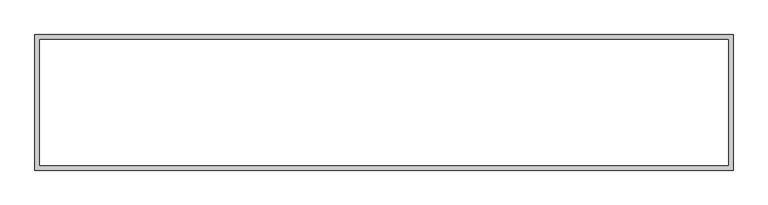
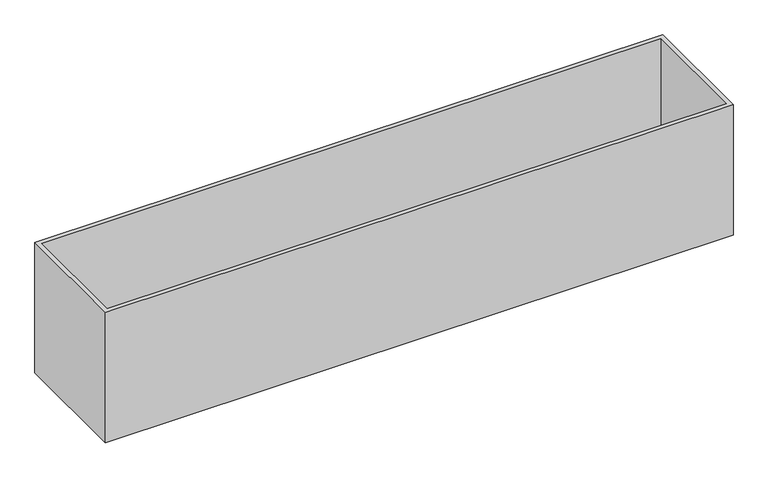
"""IFC4 building model written with IfcOpenShell, lengths in millimetres: beam geometry, Insulation_config6 : Insulation_config6."""

import ifcopenshell
import ifcopenshell.guid

model = None  # the IFC model being written
_history = None  # IfcOwnerHistory: only IFC2X3 demands one
_inside = {}  # id of a spatial element -> (the spatial element, [elements in it])
_under = {}  # id of a project, library or spatial element -> (it, [spatial elements below it])
_declared = {}  # id of a project -> (the project, [libraries it declares])
_typed = {}  # id of a type object -> (the type object, [elements of that type])
_made_of = {}  # id of a material, layer set ... -> (it, [elements and type objects made of it])


def new_model(schema):
    """Start an empty IFC model of exactly this schema.

    Asked for "IFC4X3", IfcOpenShell would pick the latest addendum, in which some entities
    have other attributes; the version numbers below select the first issue.
    IFC2X3 requires an IfcOwnerHistory on every rooted entity: one is made here for all.
    """
    global model, _history
    if schema == "IFC4X3":
        model = ifcopenshell.file(schema_version=(4, 3, 0, 0))
    else:
        model = ifcopenshell.file(schema=schema)
    _inside.clear()
    _under.clear()
    _declared.clear()
    _typed.clear()
    _made_of.clear()
    _history = None
    if model.schema == "IFC2X3":
        org = make("IfcOrganization", Name="unknown")
        user = make(
            "IfcPersonAndOrganization",
            ThePerson=make("IfcPerson", FamilyName="unknown"),
            TheOrganization=org,
        )
        app = make(
            "IfcApplication",
            ApplicationDeveloper=org,
            Version="unknown",
            ApplicationFullName="unknown",
            ApplicationIdentifier="unknown",
        )
        _history = make(
            "IfcOwnerHistory",
            OwningUser=user,
            OwningApplication=app,
            ChangeAction="ADDED",
            CreationDate=0,
        )
    return model


def make(cls, **values):
    """One entity of the class cls with the attributes given. An attribute that is None is left unset."""
    return model.create_entity(
        cls, **{name: value for name, value in values.items() if value is not None}
    )


def rooted(cls, **values):
    """An entity with a GlobalId (a new one), such as an element, a storey or a relation."""
    return make(cls, GlobalId=ifcopenshell.guid.new(), OwnerHistory=_history, **values)


def si_unit(unit_type, name, prefix=None):
    """IfcSIUnit, for example si_unit("LENGTHUNIT", "METRE", prefix="MILLI")."""
    return make("IfcSIUnit", UnitType=unit_type, Prefix=prefix, Name=name)


def assignment(units):
    """IfcUnitAssignment: the units of a project."""
    return None if units is None else make("IfcUnitAssignment", Units=units)


def point(xyz):
    """IfcCartesianPoint."""
    return None if xyz is None else make("IfcCartesianPoint", Coordinates=xyz)


def direction(xyz):
    """IfcDirection."""
    return None if xyz is None else make("IfcDirection", DirectionRatios=xyz)


def frame(location, z_axis=None, x_axis=None):
    """IfcAxis2Placement3D, a coordinate frame: its origin and axes. An axis left out is left unset."""
    return make(
        "IfcAxis2Placement3D",
        Location=point(location),
        Axis=direction(z_axis),
        RefDirection=direction(x_axis),
    )


def origin():
    """The frame at (0, 0, 0) with its axes left unset."""
    return frame((0.0, 0.0, 0.0))


def place(relative_to, where):
    """IfcLocalPlacement: puts the frame where relative to a parent placement (None: the world)."""
    return make(
        "IfcLocalPlacement", PlacementRelTo=relative_to, RelativePlacement=where
    )


def context(
    kind, dimensions, precision=None, world=None, true_north=None, identifier=None
):
    """IfcGeometricRepresentationContext, for example the 3D "Model" context."""
    return make(
        "IfcGeometricRepresentationContext",
        ContextIdentifier=identifier,
        ContextType=kind,
        CoordinateSpaceDimension=dimensions,
        Precision=precision,
        WorldCoordinateSystem=world,
        TrueNorth=true_north,
    )


def project(units=None, contexts=None):
    """IfcProject with its units and contexts."""
    return rooted(
        "IfcProject",
        Name="project",
        RepresentationContexts=contexts,
        UnitsInContext=assignment(units),
    )


def spatial(cls, under=None, at=None, **own):
    """A site, building, storey or space (cls), placed at a placement, below another one or the project."""
    s = rooted(cls, ObjectPlacement=at, **own)
    if under is not None:
        _under.setdefault(under.id(), (under, []))[1].append(s)
    return s


def polyline(points):
    """IfcPolyline through the points."""
    return make("IfcPolyline", Points=[point(p) for p in points])


def outline(outer, holes=None, kind="AREA"):
    """IfcArbitraryClosedProfileDef: a profile drawn as a closed curve; with holes, ...WithVoids."""
    if holes is None:
        return make("IfcArbitraryClosedProfileDef", ProfileType=kind, OuterCurve=outer)
    return make(
        "IfcArbitraryProfileDefWithVoids",
        ProfileType=kind,
        OuterCurve=outer,
        InnerCurves=holes,
    )


def extrude(swept, where, along, depth):
    """IfcExtrudedAreaSolid: the profile swept, set in the frame where, extruded along a direction by depth."""
    return make(
        "IfcExtrudedAreaSolid",
        SweptArea=swept,
        Position=where,
        ExtrudedDirection=direction(along),
        Depth=depth,
    )


def shape(context_of_items, identifier, shape_type, items):
    """IfcShapeRepresentation: the items that make up one representation, for example the "Body"."""
    return make(
        "IfcShapeRepresentation",
        ContextOfItems=context_of_items,
        RepresentationIdentifier=identifier,
        RepresentationType=shape_type,
        Items=items,
    )


def source(mapping_origin, context_of_items, identifier, shape_type, items):
    """IfcRepresentationMap: a shape defined once, which mapped items show again and again."""
    return make(
        "IfcRepresentationMap",
        MappingOrigin=mapping_origin,
        MappedRepresentation=shape(context_of_items, identifier, shape_type, items),
    )


def transform(
    local_origin,
    x_axis=None,
    y_axis=None,
    z_axis=None,
    scale=None,
    scale2=None,
    scale3=None,
    uniform=True,
):
    """IfcCartesianTransformationOperator3D, or its non-uniform kind. x_axis, y_axis, z_axis: its Axis1, 2, 3."""
    if uniform:
        return make(
            "IfcCartesianTransformationOperator3D",
            Axis1=direction(x_axis),
            Axis2=direction(y_axis),
            LocalOrigin=point(local_origin),
            Scale=scale,
            Axis3=direction(z_axis),
        )
    return make(
        "IfcCartesianTransformationOperator3DnonUniform",
        Axis1=direction(x_axis),
        Axis2=direction(y_axis),
        LocalOrigin=point(local_origin),
        Scale=scale,
        Axis3=direction(z_axis),
        Scale2=scale2,
        Scale3=scale3,
    )


def mapped(mapping_source, mapping_target):
    """IfcMappedItem: shows the shape of a source again, moved by a transform."""
    return make(
        "IfcMappedItem", MappingSource=mapping_source, MappingTarget=mapping_target
    )


def made_of(thing, what):
    """Note that an element or type object is made of a material, layer set ...; save() writes the relation."""
    if what is not None:
        _made_of.setdefault(what.id(), (what, []))[1].append(thing)
    return thing


def element(
    cls,
    number,
    at=None,
    inside=None,
    cuts=None,
    type_object=None,
    material=None,
    context=None,
    identifier="Body",
    shape_type=None,
    held_by="IfcProductDefinitionShape",
    body=None,
    shapes=None,
    **own,
):
    """One element of the class cls, such as IfcWall. Its Tag is "e" and its number.

    at: its placement. inside: the storey or other place that contains it. cuts: it is an
    opening in that element (IfcRelVoidsElement). A single representation is given by context,
    identifier, shape_type and body (its items); several are given by shapes. held_by: the class
    of the entity that holds the representations. save() writes the other relations.
    """
    e = rooted(cls, Tag="e%d" % number, ObjectPlacement=at, **own)
    if body is not None:
        shapes = [shape(context, identifier, shape_type, body)]
    if shapes is not None:
        e.Representation = make(held_by, Representations=shapes)
    if inside is not None:
        _inside.setdefault(inside.id(), (inside, []))[1].append(e)
    if cuts is not None:
        rooted(
            "IfcRelVoidsElement", RelatingBuildingElement=cuts, RelatedOpeningElement=e
        )
    if type_object is not None:
        _typed.setdefault(type_object.id(), (type_object, []))[1].append(e)
    return made_of(e, material)


def aggregate(whole, parts):
    """IfcRelAggregates: a whole, such as a stair, and the parts it consists of."""
    return rooted("IfcRelAggregates", RelatingObject=whole, RelatedObjects=parts)


def save(model, path):
    """Write the relations noted so far, then the file.

    IfcRelAggregates (storeys below a building ...), IfcRelContainedInSpatialStructure (elements
    in a storey), IfcRelDefinesByType, IfcRelAssociatesMaterial and IfcRelDeclares: one each for
    every whole, place, type object, material and project.
    """
    for whole, parts in _under.values():
        aggregate(whole, parts)
    for where, things in _inside.values():
        rooted(
            "IfcRelContainedInSpatialStructure",
            RelatedElements=things,
            RelatingStructure=where,
        )
    for kind, things in _typed.values():
        rooted("IfcRelDefinesByType", RelatedObjects=things, RelatingType=kind)
    for what, things in _made_of.values():
        rooted("IfcRelAssociatesMaterial", RelatedObjects=things, RelatingMaterial=what)
    for by, libraries in _declared.values():
        rooted("IfcRelDeclares", RelatingContext=by, RelatedDefinitions=libraries)
    model.write(path)


def beam_f6256054(model_context):
    return source(origin(), model_context, "Body", "SweptSolid", [
        extrude(outline(polyline([(1521.3840799, 2778.9580405), (13431.3840799, 2778.9580405), (13431.3840799, 465.9580405), (1521.3840799, 465.9580405), (1521.3840799, 2778.9580405)]), holes=[polyline([(13349.1314554, 545.9580405), (13349.1314554, 2698.9580405), (1601.1314554, 2698.9580405), (1601.1314554, 545.9580405), (13349.1314554, 545.9580405)])]), frame((0.0, 0.0, 424.0), z_axis=(0.0, 0.0, 1.0), x_axis=(1.0, 0.0, 0.0)), (0.0, 0.0, 1.0), 2616.0),
    ])


if __name__ == "__main__":
    model = new_model("IFC4")
    model_context = context("Model", 3, world=origin())
    ifc_project = project(units=[si_unit("LENGTHUNIT", "METRE", prefix="MILLI")], contexts=[model_context])
    site = spatial("IfcSite", under=ifc_project)
    building = spatial("IfcBuilding", under=site)
    placement = place(None, origin())
    beam_shape = beam_f6256054(model_context)
    element("IfcBeam", 1, ObjectType="Insulation_config6 : Insulation_config6", at=placement, inside=building, context=model_context, shape_type="MappedRepresentation", body=[
        mapped(beam_shape, transform((0.0, 0.0, 0.0), x_axis=(1.0, 0.0, 0.0), y_axis=(0.0, 1.0, 0.0), z_axis=(0.0, 0.0, 1.0))),
    ])
    save(model, "model.ifc")
